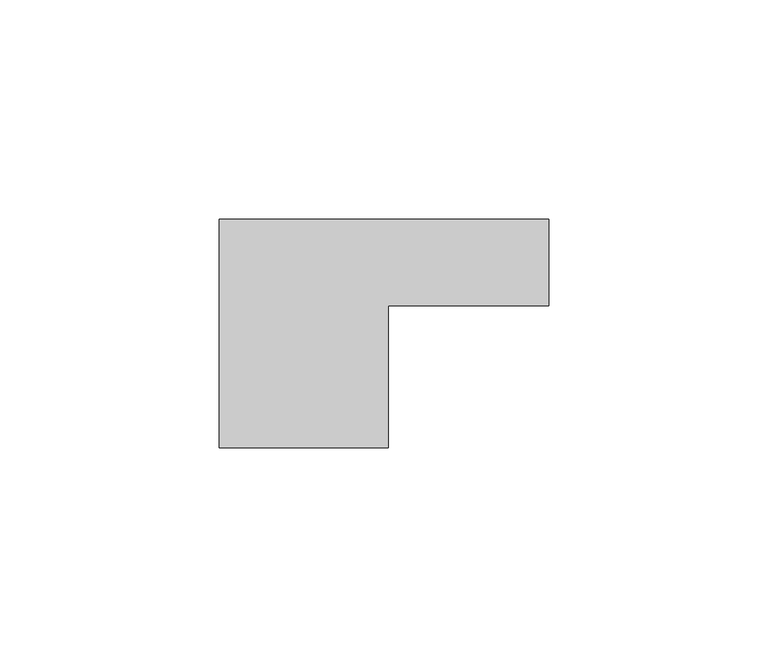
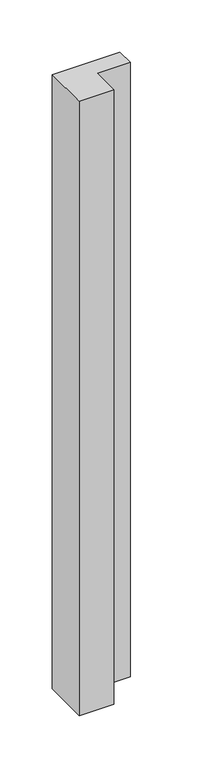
"""IFC4 building model written with IfcOpenShell, lengths in millimetres: furniture geometry, ajuste mueble - esquinas1 : ajuste mueble - esquinas."""

from ifc_helpers import new_model, si_unit, frame, origin, place, context, project, spatial, polyline, outline, extrude, source, transform, mapped, element, save


def furniture_d922bd9b(model_context):
    return source(origin(), model_context, "Body", "SweptSolid", [
        extrude(outline(polyline([(34763.8589874, 31271.3005493), (34763.8589874, 31238.9782194), (34725.3399131, 31238.9782194), (34725.3399131, 31290.9673431), (34800.3399131, 31290.9673431), (34800.3399131, 31271.3005493), (34763.8589874, 31271.3005493)])), frame((0.0, 0.0, 150.0), z_axis=(0.0, 0.0, 1.0), x_axis=(1.0, 0.0, 0.0)), (0.0, 0.0, 1.0), 720.0),
    ])


if __name__ == "__main__":
    model = new_model("IFC4")
    model_context = context("Model", 3, world=origin())
    ifc_project = project(units=[si_unit("LENGTHUNIT", "METRE", prefix="MILLI")], contexts=[model_context])
    site = spatial("IfcSite", under=ifc_project)
    building = spatial("IfcBuilding", under=site)
    placement = place(None, origin())
    furniture_shape = furniture_d922bd9b(model_context)
    element("IfcFurniture", 1, ObjectType="ajuste mueble - esquinas1 : ajuste mueble - esquinas", at=placement, inside=building, context=model_context, shape_type="MappedRepresentation", body=[
        mapped(furniture_shape, transform((0.0, 0.0, 0.0), x_axis=(1.0, 0.0, 0.0), y_axis=(0.0, 1.0, 0.0), z_axis=(0.0, 0.0, 1.0))),
    ])
    save(model, "model.ifc")
